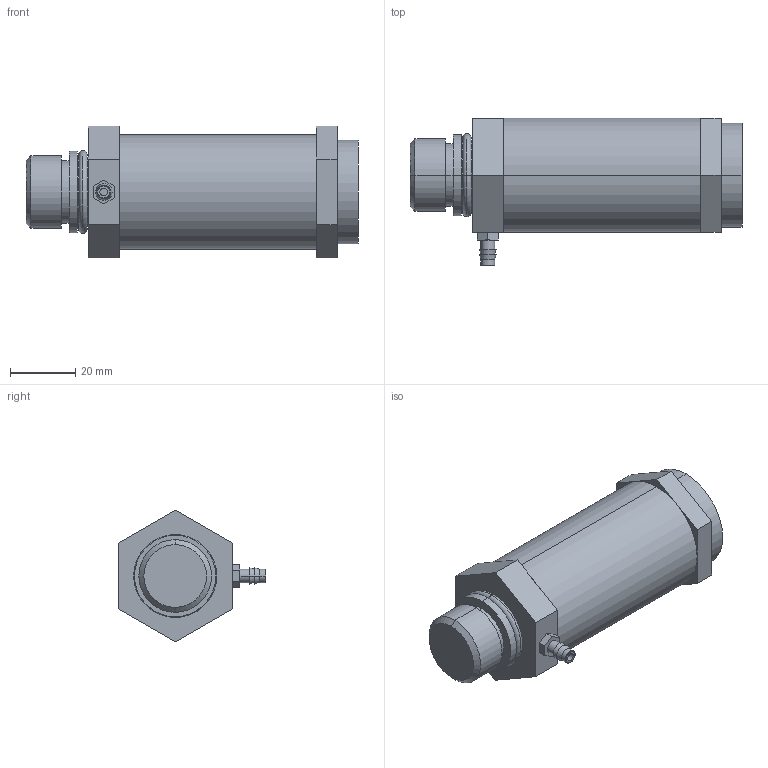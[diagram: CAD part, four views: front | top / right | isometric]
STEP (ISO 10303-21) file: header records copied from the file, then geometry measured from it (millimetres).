
FILE_DESCRIPTION((''),'2;1');
FILE_NAME('XF3_ASM','2017-08-24T',('jennifer.elliott'),('CenterLine (Windsor) Ltd - Automation Components Division'),'PRO/ENGINEER BY PARAMETRIC TECHNOLOGY CORPORATION, 2015030','PRO/ENGINEER BY PARAMETRIC TECHNOLOGY CORPORATION, 2015030','');
FILE_SCHEMA(('AUTOMOTIVE_DESIGN { 1 0 10303 214 1 1 1 1 }'));
Length unit declared in the file: inch
Products named in the file (7): PRT1069; PRT1070; PRT1071; PRT1072; PRT1073; PRT1074; XF3_ASM
Assembly tree (6 placements, depth 2):
  XF3_ASM
    PRT1069
    PRT1070
    PRT1071
    PRT1072
    PRT1073
    PRT1074
Bounding box: 101.6 x 45.24 x 40.33 mm (x, y, z)
Volume: 87311.6 mm3; surface area: 19534 mm2
Topology: 6 solids, 6 shells, 67 faces, 138 edges, 88 vertices
Faces by surface type: plane 35, cylinder 18, torus 8, cone 6
Entity records: 2230 total; most frequent: DIRECTION 358, CARTESIAN_POINT 325, ORIENTED_EDGE 276, AXIS2_PLACEMENT_3D 140, EDGE_CURVE 138, VERTEX_POINT 88, VECTOR 78, LINE 78
